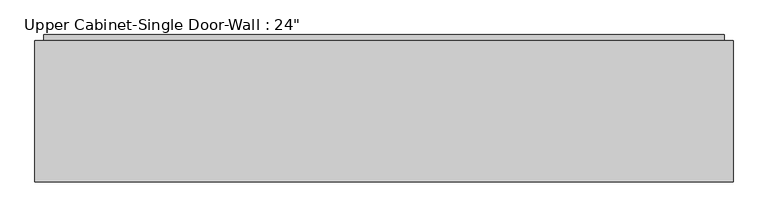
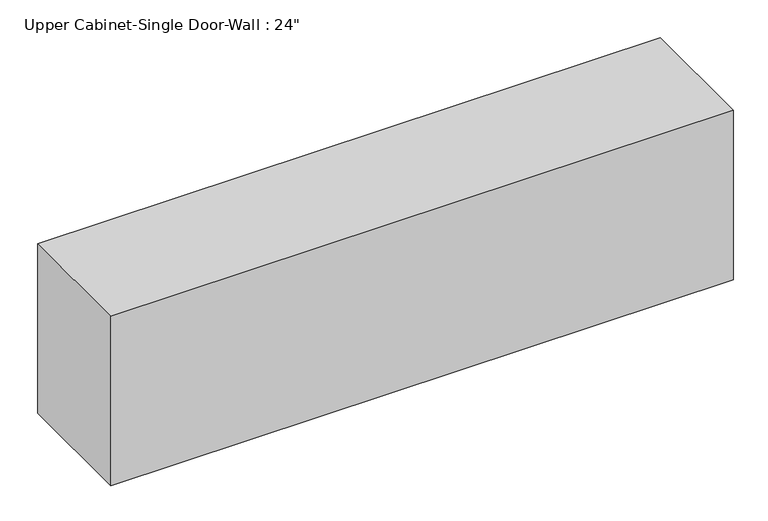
"""IFC4 building model written with IfcOpenShell, lengths in millimetres: furniture geometry."""

import ifcopenshell
import ifcopenshell.guid

model = None  # the IFC model being written
_history = None  # IfcOwnerHistory: only IFC2X3 demands one
_inside = {}  # id of a spatial element -> (the spatial element, [elements in it])
_under = {}  # id of a project, library or spatial element -> (it, [spatial elements below it])
_declared = {}  # id of a project -> (the project, [libraries it declares])
_typed = {}  # id of a type object -> (the type object, [elements of that type])
_made_of = {}  # id of a material, layer set ... -> (it, [elements and type objects made of it])


def new_model(schema):
    """Start an empty IFC model of exactly this schema.

    Asked for "IFC4X3", IfcOpenShell would pick the latest addendum, in which some entities
    have other attributes; the version numbers below select the first issue.
    IFC2X3 requires an IfcOwnerHistory on every rooted entity: one is made here for all.
    """
    global model, _history
    if schema == "IFC4X3":
        model = ifcopenshell.file(schema_version=(4, 3, 0, 0))
    else:
        model = ifcopenshell.file(schema=schema)
    _inside.clear()
    _under.clear()
    _declared.clear()
    _typed.clear()
    _made_of.clear()
    _history = None
    if model.schema == "IFC2X3":
        org = make("IfcOrganization", Name="unknown")
        user = make(
            "IfcPersonAndOrganization",
            ThePerson=make("IfcPerson", FamilyName="unknown"),
            TheOrganization=org,
        )
        app = make(
            "IfcApplication",
            ApplicationDeveloper=org,
            Version="unknown",
            ApplicationFullName="unknown",
            ApplicationIdentifier="unknown",
        )
        _history = make(
            "IfcOwnerHistory",
            OwningUser=user,
            OwningApplication=app,
            ChangeAction="ADDED",
            CreationDate=0,
        )
    return model


def make(cls, **values):
    """One entity of the class cls with the attributes given. An attribute that is None is left unset."""
    return model.create_entity(
        cls, **{name: value for name, value in values.items() if value is not None}
    )


def rooted(cls, **values):
    """An entity with a GlobalId (a new one), such as an element, a storey or a relation."""
    return make(cls, GlobalId=ifcopenshell.guid.new(), OwnerHistory=_history, **values)


def si_unit(unit_type, name, prefix=None):
    """IfcSIUnit, for example si_unit("LENGTHUNIT", "METRE", prefix="MILLI")."""
    return make("IfcSIUnit", UnitType=unit_type, Prefix=prefix, Name=name)


def assignment(units):
    """IfcUnitAssignment: the units of a project."""
    return None if units is None else make("IfcUnitAssignment", Units=units)


def point(xyz):
    """IfcCartesianPoint."""
    return None if xyz is None else make("IfcCartesianPoint", Coordinates=xyz)


def direction(xyz):
    """IfcDirection."""
    return None if xyz is None else make("IfcDirection", DirectionRatios=xyz)


def frame(location, z_axis=None, x_axis=None):
    """IfcAxis2Placement3D, a coordinate frame: its origin and axes. An axis left out is left unset."""
    return make(
        "IfcAxis2Placement3D",
        Location=point(location),
        Axis=direction(z_axis),
        RefDirection=direction(x_axis),
    )


def origin():
    """The frame at (0, 0, 0) with its axes left unset."""
    return frame((0.0, 0.0, 0.0))


def place(relative_to, where):
    """IfcLocalPlacement: puts the frame where relative to a parent placement (None: the world)."""
    return make(
        "IfcLocalPlacement", PlacementRelTo=relative_to, RelativePlacement=where
    )


def context(
    kind, dimensions, precision=None, world=None, true_north=None, identifier=None
):
    """IfcGeometricRepresentationContext, for example the 3D "Model" context."""
    return make(
        "IfcGeometricRepresentationContext",
        ContextIdentifier=identifier,
        ContextType=kind,
        CoordinateSpaceDimension=dimensions,
        Precision=precision,
        WorldCoordinateSystem=world,
        TrueNorth=true_north,
    )


def project(units=None, contexts=None):
    """IfcProject with its units and contexts."""
    return rooted(
        "IfcProject",
        Name="project",
        RepresentationContexts=contexts,
        UnitsInContext=assignment(units),
    )


def spatial(cls, under=None, at=None, **own):
    """A site, building, storey or space (cls), placed at a placement, below another one or the project."""
    s = rooted(cls, ObjectPlacement=at, **own)
    if under is not None:
        _under.setdefault(under.id(), (under, []))[1].append(s)
    return s


def polyline(points):
    """IfcPolyline through the points."""
    return make("IfcPolyline", Points=[point(p) for p in points])


def outline(outer, holes=None, kind="AREA"):
    """IfcArbitraryClosedProfileDef: a profile drawn as a closed curve; with holes, ...WithVoids."""
    if holes is None:
        return make("IfcArbitraryClosedProfileDef", ProfileType=kind, OuterCurve=outer)
    return make(
        "IfcArbitraryProfileDefWithVoids",
        ProfileType=kind,
        OuterCurve=outer,
        InnerCurves=holes,
    )


def extrude(swept, where, along, depth):
    """IfcExtrudedAreaSolid: the profile swept, set in the frame where, extruded along a direction by depth."""
    return make(
        "IfcExtrudedAreaSolid",
        SweptArea=swept,
        Position=where,
        ExtrudedDirection=direction(along),
        Depth=depth,
    )


def faces_of(points, faces, orient=None, outer=None):
    """IfcFace entities. A face is a list of loops; a loop is a list of indices into points, from 0.

    orient and outer hold one flag for each loop. By default every Orientation is true, the
    first loop of a face is its IfcFaceOuterBound and the others are IfcFaceBound.
    """
    made = []
    for i, loops in enumerate(faces):
        bounds = []
        for j, loop in enumerate(loops):
            is_outer = j == 0 if outer is None else outer[i][j]
            bounds.append(
                make(
                    "IfcFaceOuterBound" if is_outer else "IfcFaceBound",
                    Bound=make("IfcPolyLoop", Polygon=[points[k] for k in loop]),
                    Orientation=True if orient is None else orient[i][j],
                )
            )
        made.append(make("IfcFace", Bounds=bounds))
    return made


def faceted_brep(points, faces, orient=None, outer=None, voids=None):
    """IfcFacetedBrep: a solid bounded by flat faces; with voids (closed shells), ...WithVoids."""
    shared = [point(p) for p in points]
    hull = make("IfcClosedShell", CfsFaces=faces_of(shared, faces, orient, outer))
    if voids is None:
        return make("IfcFacetedBrep", Outer=hull)
    return make(
        "IfcFacetedBrepWithVoids",
        Outer=hull,
        Voids=[
            make(cls, CfsFaces=faces_of(shared, fs, o, b)) for cls, fs, o, b in voids
        ],
    )


def shape(context_of_items, identifier, shape_type, items):
    """IfcShapeRepresentation: the items that make up one representation, for example the "Body"."""
    return make(
        "IfcShapeRepresentation",
        ContextOfItems=context_of_items,
        RepresentationIdentifier=identifier,
        RepresentationType=shape_type,
        Items=items,
    )


def source(mapping_origin, context_of_items, identifier, shape_type, items):
    """IfcRepresentationMap: a shape defined once, which mapped items show again and again."""
    return make(
        "IfcRepresentationMap",
        MappingOrigin=mapping_origin,
        MappedRepresentation=shape(context_of_items, identifier, shape_type, items),
    )


def transform(
    local_origin,
    x_axis=None,
    y_axis=None,
    z_axis=None,
    scale=None,
    scale2=None,
    scale3=None,
    uniform=True,
):
    """IfcCartesianTransformationOperator3D, or its non-uniform kind. x_axis, y_axis, z_axis: its Axis1, 2, 3."""
    if uniform:
        return make(
            "IfcCartesianTransformationOperator3D",
            Axis1=direction(x_axis),
            Axis2=direction(y_axis),
            LocalOrigin=point(local_origin),
            Scale=scale,
            Axis3=direction(z_axis),
        )
    return make(
        "IfcCartesianTransformationOperator3DnonUniform",
        Axis1=direction(x_axis),
        Axis2=direction(y_axis),
        LocalOrigin=point(local_origin),
        Scale=scale,
        Axis3=direction(z_axis),
        Scale2=scale2,
        Scale3=scale3,
    )


def mapped(mapping_source, mapping_target):
    """IfcMappedItem: shows the shape of a source again, moved by a transform."""
    return make(
        "IfcMappedItem", MappingSource=mapping_source, MappingTarget=mapping_target
    )


def made_of(thing, what):
    """Note that an element or type object is made of a material, layer set ...; save() writes the relation."""
    if what is not None:
        _made_of.setdefault(what.id(), (what, []))[1].append(thing)
    return thing


def element(
    cls,
    number,
    at=None,
    inside=None,
    cuts=None,
    type_object=None,
    material=None,
    context=None,
    identifier="Body",
    shape_type=None,
    held_by="IfcProductDefinitionShape",
    body=None,
    shapes=None,
    **own,
):
    """One element of the class cls, such as IfcWall. Its Tag is "e" and its number.

    at: its placement. inside: the storey or other place that contains it. cuts: it is an
    opening in that element (IfcRelVoidsElement). A single representation is given by context,
    identifier, shape_type and body (its items); several are given by shapes. held_by: the class
    of the entity that holds the representations. save() writes the other relations.
    """
    e = rooted(cls, Tag="e%d" % number, ObjectPlacement=at, **own)
    if body is not None:
        shapes = [shape(context, identifier, shape_type, body)]
    if shapes is not None:
        e.Representation = make(held_by, Representations=shapes)
    if inside is not None:
        _inside.setdefault(inside.id(), (inside, []))[1].append(e)
    if cuts is not None:
        rooted(
            "IfcRelVoidsElement", RelatingBuildingElement=cuts, RelatedOpeningElement=e
        )
    if type_object is not None:
        _typed.setdefault(type_object.id(), (type_object, []))[1].append(e)
    return made_of(e, material)


def aggregate(whole, parts):
    """IfcRelAggregates: a whole, such as a stair, and the parts it consists of."""
    return rooted("IfcRelAggregates", RelatingObject=whole, RelatedObjects=parts)


def save(model, path):
    """Write the relations noted so far, then the file.

    IfcRelAggregates (storeys below a building ...), IfcRelContainedInSpatialStructure (elements
    in a storey), IfcRelDefinesByType, IfcRelAssociatesMaterial and IfcRelDeclares: one each for
    every whole, place, type object, material and project.
    """
    for whole, parts in _under.values():
        aggregate(whole, parts)
    for where, things in _inside.values():
        rooted(
            "IfcRelContainedInSpatialStructure",
            RelatedElements=things,
            RelatingStructure=where,
        )
    for kind, things in _typed.values():
        rooted("IfcRelDefinesByType", RelatedObjects=things, RelatingType=kind)
    for what, things in _made_of.values():
        rooted("IfcRelAssociatesMaterial", RelatedObjects=things, RelatingMaterial=what)
    for by, libraries in _declared.values():
        rooted("IfcRelDeclares", RelatingContext=by, RelatedDefinitions=libraries)
    model.write(path)


def furniture_9c7d4743(model_context):
    return source(origin(), model_context, "Body", "SolidModel", [
        faceted_brep([(-1243.6509086, 57.15, 2133.6), (-1243.6509086, 57.15, 1701.8), (258.3711628, 57.15, 1701.8), (258.3711628, 57.15, 2133.6), (-1243.6509086, 361.95, 2133.6), (258.3711628, 361.95, 2133.6), (258.3711628, 361.95, 1701.8), (-1243.6509086, 361.95, 1701.8), (-1224.6009086, 361.95, 2114.55), (-1224.6009086, 361.95, 1720.85), (239.3211628, 361.95, 1720.85), (239.3211628, 361.95, 2114.55), (239.3211628, 76.2, 2114.55), (-1224.6009086, 76.2, 2114.55), (239.3211628, 76.2, 1720.85), (-1224.6009086, 76.2, 1720.85)], [[[0, 1, 2, 3]], [[4, 5, 6, 7], [8, 9, 10, 11]], [[1, 0, 4, 7]], [[2, 1, 7, 6]], [[3, 2, 6, 5]], [[0, 3, 5, 4]], [[8, 11, 12, 13]], [[11, 10, 14, 12]], [[10, 9, 15, 14]], [[9, 8, 13, 15]], [[13, 12, 14, 15]]]),
        extrude(outline(polyline([(-1224.6009086, 374.65), (239.3211628, 374.65), (239.3211628, 342.9), (-1224.6009086, 342.9), (-1224.6009086, 374.65)])), frame((0.0, 0.0, 1720.85), z_axis=(0.0, 0.0, 1.0), x_axis=(1.0, 0.0, 0.0)), (0.0, 0.0, 1.0), 393.7),
    ])


if __name__ == "__main__":
    model = new_model("IFC4")
    model_context = context("Model", 3, world=origin())
    ifc_project = project(units=[si_unit("LENGTHUNIT", "METRE", prefix="MILLI")], contexts=[model_context])
    site = spatial("IfcSite", under=ifc_project)
    building = spatial("IfcBuilding", under=site)
    placement = place(None, origin())
    furniture_shape = furniture_9c7d4743(model_context)
    element("IfcFurniture", 1, ObjectType="Upper Cabinet-Single Door-Wall : 24\"", at=placement, inside=building, context=model_context, shape_type="MappedRepresentation", body=[
        mapped(furniture_shape, transform((0.0, 0.0, 0.0), x_axis=(1.0, 0.0, 0.0), y_axis=(0.0, 1.0, 0.0), z_axis=(0.0, 0.0, 1.0))),
    ])
    save(model, "model.ifc")
